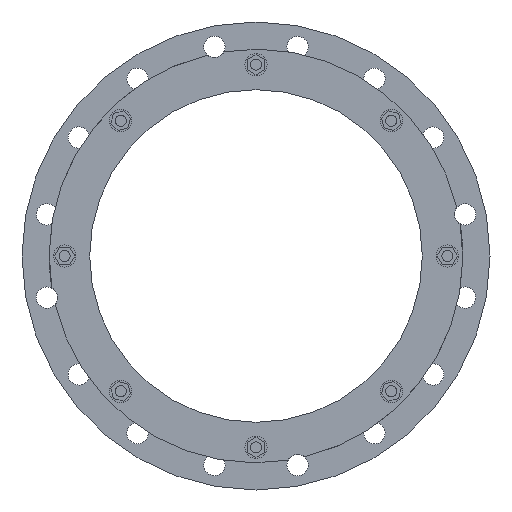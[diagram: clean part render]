
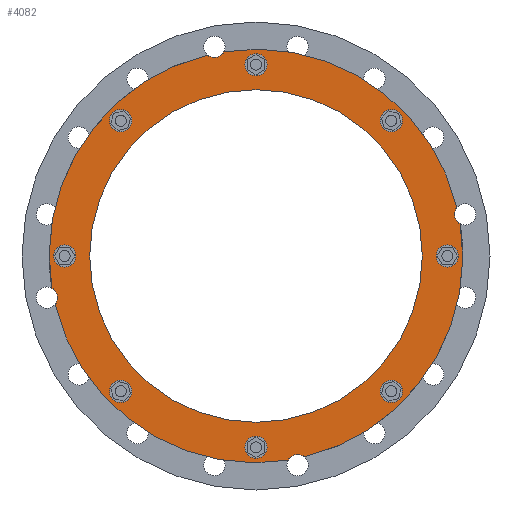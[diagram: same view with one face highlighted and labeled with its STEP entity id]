
A CAD part, front view. The second image highlights one B-rep face of the part: STEP entity #4082.
In plain terms, the highlighted planar face has unit normal (0, -1, 0).
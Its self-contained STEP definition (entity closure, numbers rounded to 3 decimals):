
#865=CARTESIAN_POINT('',(0.,-99.452,0.));
#866=DIRECTION('',(0.,-1.,0.));
#867=DIRECTION('',(0.972,0.,0.235));
#868=AXIS2_PLACEMENT_3D('',#865,#866,#867);
#888=CARTESIAN_POINT('',(0.,-99.452,0.));
#889=DIRECTION('',(0.,-1.,0.));
#890=DIRECTION('',(-0.235,0.,0.972));
#891=AXIS2_PLACEMENT_3D('',#888,#889,#890);
#897=CARTESIAN_POINT('',(0.,-99.452,0.));
#898=DIRECTION('',(0.,-1.,0.));
#899=DIRECTION('',(0.235,0.,-0.972));
#900=AXIS2_PLACEMENT_3D('',#897,#898,#899);
#929=CARTESIAN_POINT('',(0.,-99.452,0.));
#930=DIRECTION('',(0.,-1.,0.));
#931=DIRECTION('',(-0.972,0.,-0.235));
#932=AXIS2_PLACEMENT_3D('',#929,#930,#931);
#1427=CARTESIAN_POINT('',(206.5,-99.452,0.));
#1428=DIRECTION('',(0.,-1.,0.));
#1429=DIRECTION('',(0.,0.,-1.));
#1430=AXIS2_PLACEMENT_3D('',#1427,#1428,#1429);
#1432=CARTESIAN_POINT('',(206.5,-99.452,0.));
#1433=DIRECTION('',(0.,-1.,0.));
#1434=DIRECTION('',(0.,0.,1.));
#1435=AXIS2_PLACEMENT_3D('',#1432,#1433,#1434);
#1437=CARTESIAN_POINT('',(146.018,-99.452,146.018));
#1438=DIRECTION('',(0.,-1.,0.));
#1439=DIRECTION('',(0.707,0.,-0.707));
#1440=AXIS2_PLACEMENT_3D('',#1437,#1438,#1439);
#1442=CARTESIAN_POINT('',(146.018,-99.452,146.018));
#1443=DIRECTION('',(0.,-1.,0.));
#1444=DIRECTION('',(-0.707,0.,0.707));
#1445=AXIS2_PLACEMENT_3D('',#1442,#1443,#1444);
#1447=CARTESIAN_POINT('',(0.,-99.452,206.5));
#1448=DIRECTION('',(0.,-1.,0.));
#1449=DIRECTION('',(1.,0.,0.));
#1450=AXIS2_PLACEMENT_3D('',#1447,#1448,#1449);
#1452=CARTESIAN_POINT('',(0.,-99.452,206.5));
#1453=DIRECTION('',(0.,-1.,0.));
#1454=DIRECTION('',(-1.,0.,0.));
#1455=AXIS2_PLACEMENT_3D('',#1452,#1453,#1454);
#1457=CARTESIAN_POINT('',(-146.018,-99.452,146.018));
#1458=DIRECTION('',(0.,-1.,0.));
#1459=DIRECTION('',(0.707,0.,0.707));
#1460=AXIS2_PLACEMENT_3D('',#1457,#1458,#1459);
#1462=CARTESIAN_POINT('',(-146.018,-99.452,146.018));
#1463=DIRECTION('',(0.,-1.,0.));
#1464=DIRECTION('',(-0.707,0.,-0.707));
#1465=AXIS2_PLACEMENT_3D('',#1462,#1463,#1464);
#1467=CARTESIAN_POINT('',(-206.5,-99.452,0.));
#1468=DIRECTION('',(0.,-1.,0.));
#1469=DIRECTION('',(0.,0.,1.));
#1470=AXIS2_PLACEMENT_3D('',#1467,#1468,#1469);
#1472=CARTESIAN_POINT('',(-206.5,-99.452,0.));
#1473=DIRECTION('',(0.,-1.,0.));
#1474=DIRECTION('',(0.,0.,-1.));
#1475=AXIS2_PLACEMENT_3D('',#1472,#1473,#1474);
#1477=CARTESIAN_POINT('',(-146.018,-99.452,-146.018));
#1478=DIRECTION('',(0.,-1.,0.));
#1479=DIRECTION('',(-0.707,0.,0.707));
#1480=AXIS2_PLACEMENT_3D('',#1477,#1478,#1479);
#1482=CARTESIAN_POINT('',(-146.018,-99.452,-146.018));
#1483=DIRECTION('',(0.,-1.,0.));
#1484=DIRECTION('',(0.707,0.,-0.707));
#1485=AXIS2_PLACEMENT_3D('',#1482,#1483,#1484);
#1487=CARTESIAN_POINT('',(0.,-99.452,-206.5));
#1488=DIRECTION('',(0.,-1.,0.));
#1489=DIRECTION('',(-1.,0.,0.));
#1490=AXIS2_PLACEMENT_3D('',#1487,#1488,#1489);
#1492=CARTESIAN_POINT('',(0.,-99.452,-206.5));
#1493=DIRECTION('',(0.,-1.,0.));
#1494=DIRECTION('',(1.,0.,0.));
#1495=AXIS2_PLACEMENT_3D('',#1492,#1493,#1494);
#1497=CARTESIAN_POINT('',(146.018,-99.452,-146.018));
#1498=DIRECTION('',(0.,-1.,0.));
#1499=DIRECTION('',(-0.707,0.,-0.707));
#1500=AXIS2_PLACEMENT_3D('',#1497,#1498,#1499);
#1502=CARTESIAN_POINT('',(146.018,-99.452,-146.018));
#1503=DIRECTION('',(0.,-1.,0.));
#1504=DIRECTION('',(0.707,0.,0.707));
#1505=AXIS2_PLACEMENT_3D('',#1502,#1503,#1504);
#1507=CARTESIAN_POINT('',(44.871,-99.452,-225.581));
#1508=DIRECTION('',(0.,-1.,0.));
#1509=DIRECTION('',(0.652,0.,0.758));
#1510=AXIS2_PLACEMENT_3D('',#1507,#1508,#1509);
#1512=CARTESIAN_POINT('',(-225.581,-99.452,-44.871));
#1513=DIRECTION('',(0.,-1.,0.));
#1514=DIRECTION('',(0.758,0.,-0.652));
#1515=AXIS2_PLACEMENT_3D('',#1512,#1513,#1514);
#1517=CARTESIAN_POINT('',(-44.871,-99.452,225.581));
#1518=DIRECTION('',(0.,-1.,0.));
#1519=DIRECTION('',(-0.652,0.,-0.758));
#1520=AXIS2_PLACEMENT_3D('',#1517,#1518,#1519);
#1522=CARTESIAN_POINT('',(225.581,-99.452,44.871));
#1523=DIRECTION('',(0.,-1.,0.));
#1524=DIRECTION('',(-0.758,0.,0.652));
#1525=AXIS2_PLACEMENT_3D('',#1522,#1523,#1524);
#1527=CARTESIAN_POINT('',(0.,-99.452,0.));
#1528=DIRECTION('',(0.,1.,0.));
#1529=DIRECTION('',(1.,0.,0.));
#1530=AXIS2_PLACEMENT_3D('',#1527,#1528,#1529);
#1540=CARTESIAN_POINT('',(0.,-99.452,0.));
#1541=DIRECTION('',(0.,-1.,0.));
#1542=DIRECTION('',(1.,0.,0.));
#1543=AXIS2_PLACEMENT_3D('',#1540,#1541,#1542);
#2541=CARTESIAN_POINT('',(179.5,-99.452,0.));
#2543=VERTEX_POINT('',#2541);
#2549=CARTESIAN_POINT('',(-179.5,-99.452,0.));
#2551=VERTEX_POINT('',#2549);
#2590=CARTESIAN_POINT('',(206.5,-99.452,-12.));
#2591=CARTESIAN_POINT('',(206.5,-99.452,12.));
#2592=VERTEX_POINT('',#2590);
#2593=VERTEX_POINT('',#2591);
#2639=CARTESIAN_POINT('',(154.503,-99.452,137.532));
#2640=VERTEX_POINT('',#2639);
#2641=CARTESIAN_POINT('',(137.532,-99.452,154.503));
#2642=VERTEX_POINT('',#2641);
#2683=CARTESIAN_POINT('',(12.,-99.452,206.5));
#2684=VERTEX_POINT('',#2683);
#2685=CARTESIAN_POINT('',(-12.,-99.452,206.5));
#2686=VERTEX_POINT('',#2685);
#2727=CARTESIAN_POINT('',(-137.532,-99.452,154.503));
#2728=VERTEX_POINT('',#2727);
#2729=CARTESIAN_POINT('',(-154.503,-99.452,137.532));
#2730=VERTEX_POINT('',#2729);
#2771=CARTESIAN_POINT('',(-206.5,-99.452,12.));
#2772=VERTEX_POINT('',#2771);
#2773=CARTESIAN_POINT('',(-206.5,-99.452,-12.));
#2774=VERTEX_POINT('',#2773);
#2815=CARTESIAN_POINT('',(-154.503,-99.452,-137.532));
#2816=VERTEX_POINT('',#2815);
#2817=CARTESIAN_POINT('',(-137.532,-99.452,-154.503));
#2818=VERTEX_POINT('',#2817);
#2859=CARTESIAN_POINT('',(-12.,-99.452,-206.5));
#2860=VERTEX_POINT('',#2859);
#2861=CARTESIAN_POINT('',(12.,-99.452,-206.5));
#2862=VERTEX_POINT('',#2861);
#2903=CARTESIAN_POINT('',(137.532,-99.452,-154.503));
#2904=VERTEX_POINT('',#2903);
#2905=CARTESIAN_POINT('',(154.503,-99.452,-137.532));
#2906=VERTEX_POINT('',#2905);
#3105=CARTESIAN_POINT('',(216.865,-99.452,52.374));
#3106=CARTESIAN_POINT('',(220.4,-99.452,34.604));
#3107=VERTEX_POINT('',#3105);
#3108=VERTEX_POINT('',#3106);
#3111=CARTESIAN_POINT('',(-52.374,-99.452,216.865));
#3113=VERTEX_POINT('',#3111);
#3115=CARTESIAN_POINT('',(-34.604,-99.452,220.4));
#3117=VERTEX_POINT('',#3115);
#3121=CARTESIAN_POINT('',(-216.865,-99.452,-52.374));
#3122=VERTEX_POINT('',#3121);
#3123=CARTESIAN_POINT('',(-220.4,-99.452,-34.604));
#3124=VERTEX_POINT('',#3123);
#3127=CARTESIAN_POINT('',(52.374,-99.452,-216.865));
#3128=VERTEX_POINT('',#3127);
#3129=CARTESIAN_POINT('',(34.604,-99.452,-220.4));
#3130=VERTEX_POINT('',#3129);
#4012=CARTESIAN_POINT('',(0.,-99.452,0.));
#4013=DIRECTION('',(0.,1.,0.));
#4014=DIRECTION('',(-1.,0.,0.));
#4015=AXIS2_PLACEMENT_3D('',#4012,#4013,#4014);
#4016=PLANE('',#4015);
#4017=ORIENTED_EDGE('',*,*,#3641,.T.);
#4018=ORIENTED_EDGE('',*,*,#3706,.F.);
#4020=ORIENTED_EDGE('',*,*,#4019,.T.);
#4021=ORIENTED_EDGE('',*,*,#3676,.F.);
#4022=ORIENTED_EDGE('',*,*,#3720,.T.);
#4023=ORIENTED_EDGE('',*,*,#3659,.F.);
#4025=ORIENTED_EDGE('',*,*,#4024,.T.);
#4026=ORIENTED_EDGE('',*,*,#3687,.F.);
#4027=EDGE_LOOP('',(#4017,#4018,#4020,#4021,#4022,#4023,#4025,#4026));
#4028=FACE_OUTER_BOUND('',#4027,.F.);
#4029=ORIENTED_EDGE('',*,*,#4002,.T.);
#4031=ORIENTED_EDGE('',*,*,#4030,.T.);
#4032=EDGE_LOOP('',(#4029,#4031));
#4033=FACE_BOUND('',#4032,.F.);
#4035=ORIENTED_EDGE('',*,*,#4034,.T.);
#4037=ORIENTED_EDGE('',*,*,#4036,.T.);
#4038=EDGE_LOOP('',(#4035,#4037));
#4039=FACE_BOUND('',#4038,.F.);
#4041=ORIENTED_EDGE('',*,*,#4040,.T.);
#4043=ORIENTED_EDGE('',*,*,#4042,.T.);
#4044=EDGE_LOOP('',(#4041,#4043));
#4045=FACE_BOUND('',#4044,.F.);
#4047=ORIENTED_EDGE('',*,*,#4046,.T.);
#4049=ORIENTED_EDGE('',*,*,#4048,.T.);
#4050=EDGE_LOOP('',(#4047,#4049));
#4051=FACE_BOUND('',#4050,.F.);
#4053=ORIENTED_EDGE('',*,*,#4052,.T.);
#4055=ORIENTED_EDGE('',*,*,#4054,.T.);
#4056=EDGE_LOOP('',(#4053,#4055));
#4057=FACE_BOUND('',#4056,.F.);
#4059=ORIENTED_EDGE('',*,*,#4058,.T.);
#4061=ORIENTED_EDGE('',*,*,#4060,.T.);
#4062=EDGE_LOOP('',(#4059,#4061));
#4063=FACE_BOUND('',#4062,.F.);
#4065=ORIENTED_EDGE('',*,*,#4064,.T.);
#4067=ORIENTED_EDGE('',*,*,#4066,.T.);
#4068=EDGE_LOOP('',(#4065,#4067));
#4069=FACE_BOUND('',#4068,.F.);
#4071=ORIENTED_EDGE('',*,*,#4070,.T.);
#4073=ORIENTED_EDGE('',*,*,#4072,.T.);
#4074=EDGE_LOOP('',(#4071,#4073));
#4075=FACE_BOUND('',#4074,.F.);
#4077=ORIENTED_EDGE('',*,*,#4076,.F.);
#4079=ORIENTED_EDGE('',*,*,#4078,.T.);
#4080=EDGE_LOOP('',(#4077,#4079));
#4081=FACE_BOUND('',#4080,.F.);
#4082=ADVANCED_FACE('',(#4028,#4033,#4039,#4045,#4051,#4057,#4063,#4069,#4075,
#4081),#4016,.F.);
#869=CIRCLE('',#868,223.1);
#892=CIRCLE('',#891,223.1);
#901=CIRCLE('',#900,223.1);
#933=CIRCLE('',#932,223.1);
#1431=CIRCLE('',#1430,12.);
#1436=CIRCLE('',#1435,12.);
#1441=CIRCLE('',#1440,12.);
#1446=CIRCLE('',#1445,12.);
#1451=CIRCLE('',#1450,12.);
#1456=CIRCLE('',#1455,12.);
#1461=CIRCLE('',#1460,12.);
#1466=CIRCLE('',#1465,12.);
#1471=CIRCLE('',#1470,12.);
#1476=CIRCLE('',#1475,12.);
#1481=CIRCLE('',#1480,12.);
#1486=CIRCLE('',#1485,12.);
#1491=CIRCLE('',#1490,12.);
#1496=CIRCLE('',#1495,12.);
#1501=CIRCLE('',#1500,12.);
#1506=CIRCLE('',#1505,12.);
#1511=CIRCLE('',#1510,11.5);
#1516=CIRCLE('',#1515,11.5);
#1521=CIRCLE('',#1520,11.5);
#1526=CIRCLE('',#1525,11.5);
#1531=CIRCLE('',#1530,179.5);
#1544=CIRCLE('',#1543,179.5);
#3641=EDGE_CURVE('',#3128,#3130,#1511,.T.);
#3659=EDGE_CURVE('',#3107,#3117,#869,.T.);
#3676=EDGE_CURVE('',#3113,#3124,#892,.T.);
#3687=EDGE_CURVE('',#3128,#3108,#901,.T.);
#3706=EDGE_CURVE('',#3122,#3130,#933,.T.);
#3720=EDGE_CURVE('',#3113,#3117,#1521,.T.);
#4002=EDGE_CURVE('',#2592,#2593,#1431,.T.);
#4019=EDGE_CURVE('',#3122,#3124,#1516,.T.);
#4024=EDGE_CURVE('',#3107,#3108,#1526,.T.);
#4030=EDGE_CURVE('',#2593,#2592,#1436,.T.);
#4034=EDGE_CURVE('',#2640,#2642,#1441,.T.);
#4036=EDGE_CURVE('',#2642,#2640,#1446,.T.);
#4040=EDGE_CURVE('',#2684,#2686,#1451,.T.);
#4042=EDGE_CURVE('',#2686,#2684,#1456,.T.);
#4046=EDGE_CURVE('',#2728,#2730,#1461,.T.);
#4048=EDGE_CURVE('',#2730,#2728,#1466,.T.);
#4052=EDGE_CURVE('',#2772,#2774,#1471,.T.);
#4054=EDGE_CURVE('',#2774,#2772,#1476,.T.);
#4058=EDGE_CURVE('',#2816,#2818,#1481,.T.);
#4060=EDGE_CURVE('',#2818,#2816,#1486,.T.);
#4064=EDGE_CURVE('',#2860,#2862,#1491,.T.);
#4066=EDGE_CURVE('',#2862,#2860,#1496,.T.);
#4070=EDGE_CURVE('',#2904,#2906,#1501,.T.);
#4072=EDGE_CURVE('',#2906,#2904,#1506,.T.);
#4076=EDGE_CURVE('',#2543,#2551,#1531,.T.);
#4078=EDGE_CURVE('',#2543,#2551,#1544,.T.);
